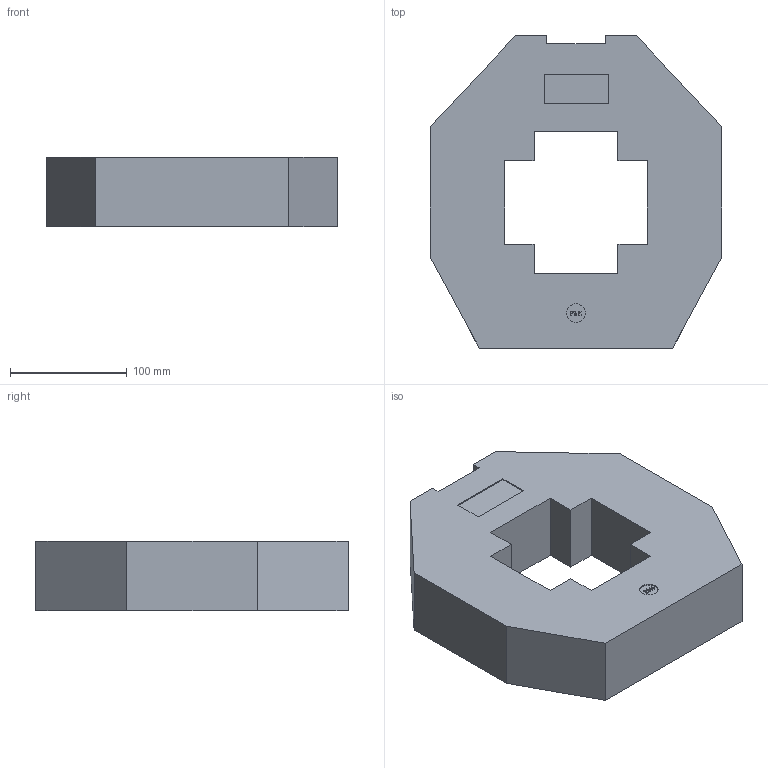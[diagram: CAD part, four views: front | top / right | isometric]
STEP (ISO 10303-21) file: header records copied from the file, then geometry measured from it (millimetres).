
FILE_DESCRIPTION(/* description */ (''),/* implementation_level */ '2;1');
FILE_NAME(/* name */ 'TPR125B 120x70.step',/* time_stamp */ '2026-05-06T14:26:31+02:00',/* author */ (''),/* organization */ (''),/* preprocessor_version */ 'ST-DEVELOPER v20.1',/* originating_system */ 'Autodesk Translation Framework v15.8.0.0',/* authorisation */ '');
FILE_SCHEMA (('AUTOMOTIVE_DESIGN { 1 0 10303 214 3 1 1 }'));
Length unit declared in the file: millimetre
Products named in the file (1): 2026-05-06-10-40-53-663
Bounding box: 249.96 x 267.86 x 60 mm (x, y, z)
Volume: 2711911.4 mm3; surface area: 174350.3 mm2
Topology: 1 solids, 1 shells, 157 faces, 414 edges, 276 vertices
Faces by surface type: plane 123, bspline 29, cylinder 5
Full cylindrical faces by diameter (mm): 3 x3, 15.869 x2
Entity records: 5200 total; most frequent: CARTESIAN_POINT 1456, ORIENTED_EDGE 828, DIRECTION 624, EDGE_CURVE 414, LINE 346, VECTOR 346, VERTEX_POINT 276, EDGE_LOOP 176
